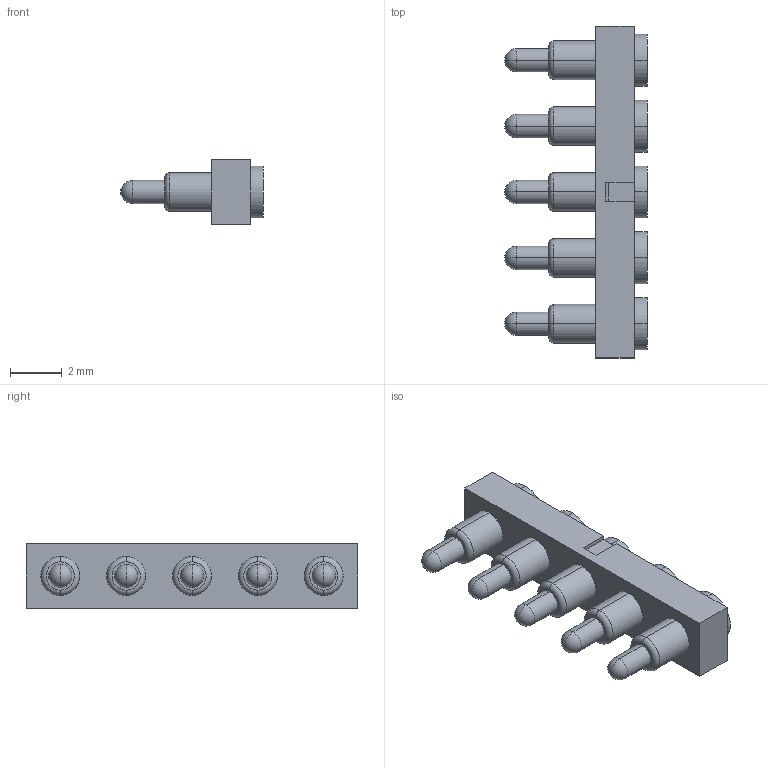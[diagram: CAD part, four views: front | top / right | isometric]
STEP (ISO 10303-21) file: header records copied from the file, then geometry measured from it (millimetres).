
FILE_DESCRIPTION((''),'2;1');
FILE_NAME('ASM0013_ASM','2023-06-07T16:24:07',('USER'),(''),'CREO PARAMETRIC BY PTC INC, 2020154','CREO PARAMETRIC BY PTC INC, 2020154','');
FILE_SCHEMA(('CONFIG_CONTROL_DESIGN'));
Length unit declared in the file: millimetre
Products named in the file (3): PRT0025; PRT0024; ASM0013_ASM
Assembly tree (6 placements, depth 2):
  ASM0013_ASM
    PRT0025
    PRT0024  x5
Bounding box: 5.5 x 12.8 x 2.5 mm (x, y, z)
Volume: 76.2 mm3; surface area: 272.4 mm2
Topology: 6 solids, 6 shells, 139 faces, 296 edges, 179 vertices
Faces by surface type: cylinder 70, plane 39, sphere 10, torus 10, cone 10
Entity records: 1498 total; most frequent: DIRECTION 272, CARTESIAN_POINT 237, ORIENTED_EDGE 220, EDGE_CURVE 110, AXIS2_PLACEMENT_3D 106, VERTEX_POINT 71, EDGE_LOOP 61, VECTOR 60
